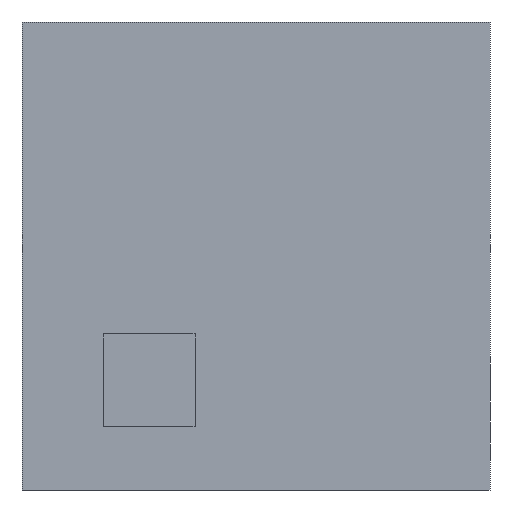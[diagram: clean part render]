
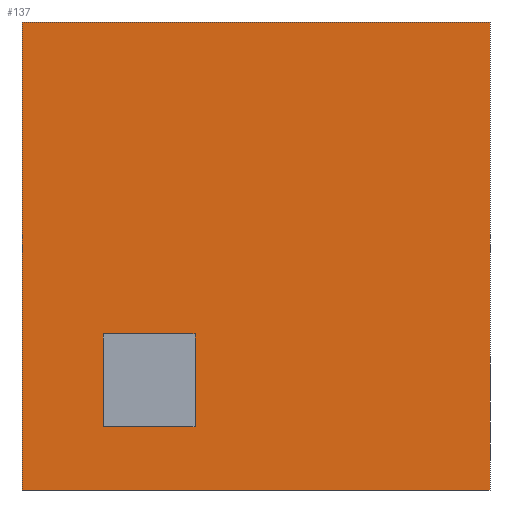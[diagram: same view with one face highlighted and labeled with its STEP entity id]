
A CAD part, front view. The second image highlights one B-rep face of the part: STEP entity #137.
In plain terms, the highlighted planar face has unit normal (0, -1, 0).
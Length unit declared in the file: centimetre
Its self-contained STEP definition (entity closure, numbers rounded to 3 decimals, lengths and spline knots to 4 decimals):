
#28 = DIRECTION ( 'NONE',  ( 1., 0., 0. ) ) ;
#34 = CARTESIAN_POINT ( 'NONE',  ( 369.6896, 0., 333.4244 ) ) ;
#44 = EDGE_CURVE ( 'NONE', #375, #717, #684, .T. ) ;
#53 = PLANE ( 'NONE',  #931 ) ;
#69 = DIRECTION ( 'NONE',  ( 0., 0., 1. ) ) ;
#86 = VECTOR ( 'NONE', #904, 100. ) ;
#89 = ORIENTED_EDGE ( 'NONE', *, *, #44, .T. ) ;
#90 = CARTESIAN_POINT ( 'NONE',  ( 1000., 0., 1000. ) ) ;
#94 = ORIENTED_EDGE ( 'NONE', *, *, #240, .T. ) ;
#137 = ADVANCED_FACE ( 'NONE', ( #1139, #448 ), #53, .F. ) ;
#154 = CARTESIAN_POINT ( 'NONE',  ( 0., 0., 0. ) ) ;
#191 = VECTOR ( 'NONE', #917, 100. ) ;
#223 = VERTEX_POINT ( 'NONE', #842 ) ;
#228 = VECTOR ( 'NONE', #829, 100. ) ;
#240 = EDGE_CURVE ( 'NONE', #717, #223, #654, .T. ) ;
#241 = ORIENTED_EDGE ( 'NONE', *, *, #354, .F. ) ;
#243 = LINE ( 'NONE', #1146, #1059 ) ;
#255 = DIRECTION ( 'NONE',  ( -1., 0., 0. ) ) ;
#270 = CARTESIAN_POINT ( 'NONE',  ( 0., 0., 1000. ) ) ;
#314 = VECTOR ( 'NONE', #255, 100. ) ;
#340 = LINE ( 'NONE', #721, #314 ) ;
#350 = EDGE_CURVE ( 'NONE', #1258, #1144, #1134, .T. ) ;
#354 = EDGE_CURVE ( 'NONE', #1252, #998, #243, .T. ) ;
#375 = VERTEX_POINT ( 'NONE', #1035 ) ;
#420 = VECTOR ( 'NONE', #944, 100. ) ;
#448 = FACE_OUTER_BOUND ( 'NONE', #958, .T. ) ;
#453 = CARTESIAN_POINT ( 'NONE',  ( 173.2594, 0., 134.7326 ) ) ;
#466 = ORIENTED_EDGE ( 'NONE', *, *, #1030, .F. ) ;
#509 = LINE ( 'NONE', #603, #86 ) ;
#540 = ORIENTED_EDGE ( 'NONE', *, *, #808, .F. ) ;
#569 = CARTESIAN_POINT ( 'NONE',  ( 0., 0., 0. ) ) ;
#603 = CARTESIAN_POINT ( 'NONE',  ( 1000., 0., 1000. ) ) ;
#654 = LINE ( 'NONE', #154, #191 ) ;
#663 = VECTOR ( 'NONE', #810, 100. ) ;
#666 = VERTEX_POINT ( 'NONE', #90 ) ;
#684 = LINE ( 'NONE', #884, #663 ) ;
#717 = VERTEX_POINT ( 'NONE', #569 ) ;
#721 = CARTESIAN_POINT ( 'NONE',  ( 173.2594, 0., 333.4244 ) ) ;
#745 = ORIENTED_EDGE ( 'NONE', *, *, #1093, .F. ) ;
#773 = ORIENTED_EDGE ( 'NONE', *, *, #1040, .F. ) ;
#808 = EDGE_CURVE ( 'NONE', #666, #223, #509, .T. ) ;
#810 = DIRECTION ( 'NONE',  ( 0., 0., -1. ) ) ;
#829 = DIRECTION ( 'NONE',  ( 1., 0., 0. ) ) ;
#834 = DIRECTION ( 'NONE',  ( 0., 1., 0. ) ) ;
#842 = CARTESIAN_POINT ( 'NONE',  ( 1000., 0., 0. ) ) ;
#884 = CARTESIAN_POINT ( 'NONE',  ( 0., 0., 1000. ) ) ;
#904 = DIRECTION ( 'NONE',  ( 0., 0., -1. ) ) ;
#915 = LINE ( 'NONE', #1021, #1018 ) ;
#917 = DIRECTION ( 'NONE',  ( 1., 0., 0. ) ) ;
#923 = CARTESIAN_POINT ( 'NONE',  ( 369.6896, 0., 134.7326 ) ) ;
#931 = AXIS2_PLACEMENT_3D ( 'NONE', #270, #834, #69 ) ;
#944 = DIRECTION ( 'NONE',  ( 0., 0., -1. ) ) ;
#958 = EDGE_LOOP ( 'NONE', ( #94, #540, #466, #89 ) ) ;
#998 = VERTEX_POINT ( 'NONE', #34 ) ;
#1018 = VECTOR ( 'NONE', #28, 100. ) ;
#1021 = CARTESIAN_POINT ( 'NONE',  ( 173.2594, 0., 134.7326 ) ) ;
#1030 = EDGE_CURVE ( 'NONE', #375, #666, #1118, .T. ) ;
#1035 = CARTESIAN_POINT ( 'NONE',  ( 0., 0., 1000. ) ) ;
#1040 = EDGE_CURVE ( 'NONE', #1144, #1252, #915, .T. ) ;
#1049 = CARTESIAN_POINT ( 'NONE',  ( 173.2594, 0., 134.7326 ) ) ;
#1054 = ORIENTED_EDGE ( 'NONE', *, *, #350, .F. ) ;
#1059 = VECTOR ( 'NONE', #1214, 100. ) ;
#1093 = EDGE_CURVE ( 'NONE', #998, #1258, #340, .T. ) ;
#1118 = LINE ( 'NONE', #1218, #228 ) ;
#1120 = EDGE_LOOP ( 'NONE', ( #773, #1054, #745, #241 ) ) ;
#1134 = LINE ( 'NONE', #1049, #420 ) ;
#1139 = FACE_BOUND ( 'NONE', #1120, .T. ) ;
#1144 = VERTEX_POINT ( 'NONE', #453 ) ;
#1146 = CARTESIAN_POINT ( 'NONE',  ( 369.6896, 0., 134.7326 ) ) ;
#1214 = DIRECTION ( 'NONE',  ( 0., 0., 1. ) ) ;
#1218 = CARTESIAN_POINT ( 'NONE',  ( 0., 0., 1000. ) ) ;
#1226 = CARTESIAN_POINT ( 'NONE',  ( 173.2594, 0., 333.4244 ) ) ;
#1252 = VERTEX_POINT ( 'NONE', #923 ) ;
#1258 = VERTEX_POINT ( 'NONE', #1226 ) ;
